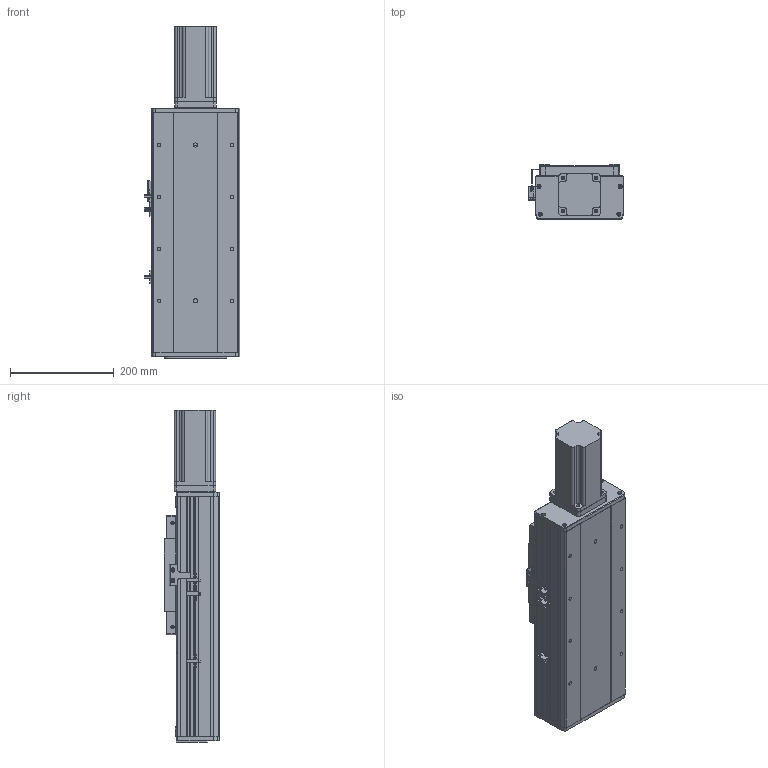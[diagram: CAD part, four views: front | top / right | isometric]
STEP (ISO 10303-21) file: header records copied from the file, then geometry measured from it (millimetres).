
FILE_DESCRIPTION (( 'STEP AP203' ), '1' );
FILE_NAME ('RY170F-L2020-300-MK.SLDASM_150.step', '2021-03-02T06:31:03', ( '盈信电脑' ), ( '东莞市道滘镇水果街19号' ), 'SwSTEP 2.0', 'SolidWorks 2012', '' );
FILE_SCHEMA (( 'CONFIG_CONTROL_DESIGN' ));
Products named in the file (22): RY170F-L2020-300-MK.SLDASM_150; 侐源滅袉蝶; 覜茼ん674; 怢湛750W萇儂ㄗ80遺ㄘ; 750W萇儂梓袧蛌諉啣; 滅袉蝶18-24; RY170F-揤踡謫假蚾粣; RY170F-詩湍揤踡輸; 覜茼ん672; RY170F俋离覜茼え; RY170F-后盖板(铝件）; RY100F-詩湍揤踡謫; 15; 侂狟400W侜督萇儂; 滅袉蝶18-10; RY170F-直连前盖板(铝件）; RY170F-滅鳥奻裔; RY170F-佪裝臏賑輸20蹟譫; RY170F-300眻蟀倰第奻裔啣-MK_150; RY170F-丝杆铝滑块连接板; RY170F-300眻蟀倰第菁釱-MK_150; RY170F-300眻蟀祥凄詩湍-MK_150
Assembly tree (26 placements, depth 3):
  RY170F-L2020-300-MK.SLDASM_150
    RY170F-300眻蟀倰第菁釱-MK_150
    RY170F-300眻蟀祥凄詩湍-MK_150
    RY170F-300眻蟀倰第奻裔啣-MK_150  x2
    RY170F-滅鳥奻裔
    RY170F-佪裝臏賑輸20蹟譫
    RY170F-丝杆铝滑块连接板
    侂狟400W侜督萇儂
      15
    RY170F-直连前盖板(铝件）
    滅袉蝶18-10
    RY100F-詩湍揤踡謫
    RY170F-后盖板(铝件）
    覜茼ん672  x3
    RY170F俋离覜茼え
    RY170F-揤踡謫假蚾粣
    RY170F-詩湍揤踡輸  x2
    滅袉蝶18-24
    750W萇儂梓袧蛌諉啣
    怢湛750W萇儂ㄗ80遺ㄘ
    侐源滅袉蝶  x2
    覜茼ん674
Bounding box: 183.7 x 107 x 639 mm (x, y, z)
Volume: 4266490 mm3; surface area: 1155426.2 mm2
Topology: 25 solids, 25 shells, 2156 faces, 5951 edges, 3832 vertices
Faces by surface type: plane 1001, cylinder 941, cone 196, bspline 18
Entity records: 63259 total; most frequent: CARTESIAN_POINT 12567, DIRECTION 10313, ORIENTED_EDGE 9926, EDGE_CURVE 4963, AXIS2_PLACEMENT_3D 3644, VERTEX_POINT 3252, LINE 3025, VECTOR 3025
